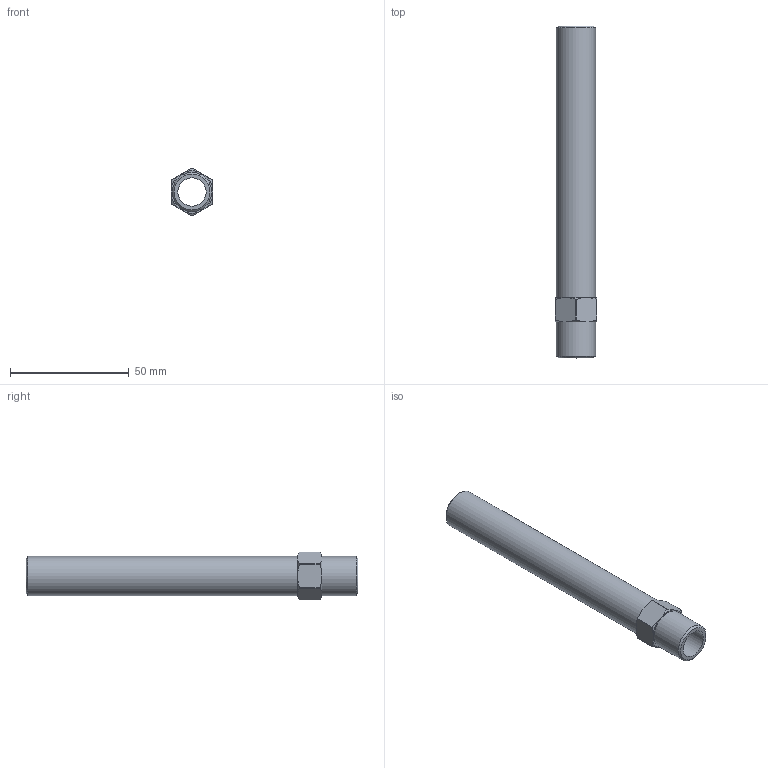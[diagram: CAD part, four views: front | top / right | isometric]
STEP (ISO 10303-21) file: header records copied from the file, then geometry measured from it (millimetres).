
FILE_DESCRIPTION(/* description */ (''),/* implementation_level */ '2;1');
FILE_NAME(/* name */ 'C:/Users/drich/Desktop/APN38-5-1_2 v1.step',/* time_stamp */ '2019-12-27T17:54:28-06:00',/* author */ (''),/* organization */ (''),/* preprocessor_version */ 'ST-DEVELOPER v18',/* originating_system */ 'Autodesk Translation Framework v8.12.0.6',/* authorisation */ '');
FILE_SCHEMA (('AUTOMOTIVE_DESIGN { 1 0 10303 214 3 1 1 }'));
Length unit declared in the file: inch
Products named in the file (1): APN38-5-1_2
Bounding box: 17.45 x 139.7 x 20.12 mm (x, y, z)
Volume: 14959 mm3; surface area: 12796.8 mm2
Topology: 1 solids, 1 shells, 33 faces, 89 edges, 60 vertices
Faces by surface type: cone 14, plane 10, cylinder 9
Full cylindrical faces by diameter (mm): 11.887 x1, 16.537 x2
Entity records: 1077 total; most frequent: CARTESIAN_POINT 231, ORIENTED_EDGE 178, DIRECTION 169, EDGE_CURVE 89, AXIS2_PLACEMENT_3D 70, VERTEX_POINT 60, EDGE_LOOP 37, CIRCLE 36
